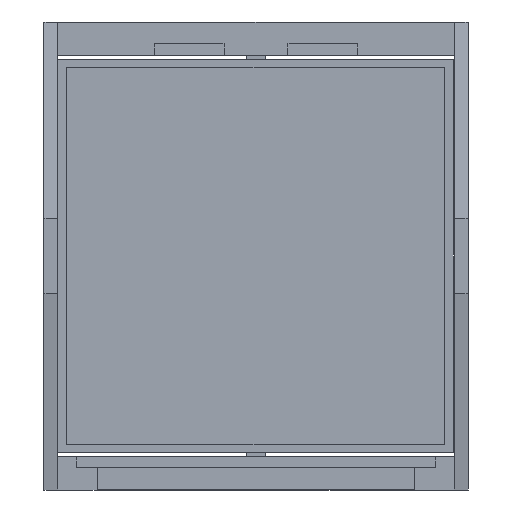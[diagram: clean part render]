
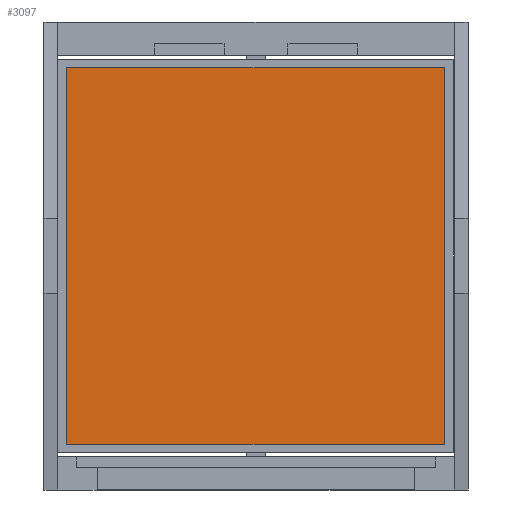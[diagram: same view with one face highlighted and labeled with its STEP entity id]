
A CAD part, front view. The second image highlights one B-rep face of the part: STEP entity #3097.
In plain terms, the highlighted planar face has unit normal (0, -1, 0).
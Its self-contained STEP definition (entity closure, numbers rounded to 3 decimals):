
#828 = LINE ( 'NONE', #4427, #5361 ) ;
#1387 = ORIENTED_EDGE ( 'NONE', *, *, #3727, .F. ) ;
#1800 = CARTESIAN_POINT ( 'NONE',  ( 24.524, -2.324, 17.577 ) ) ;
#1819 = DIRECTION ( 'NONE',  ( 0., 0., -1. ) ) ;
#2428 = LINE ( 'NONE', #3927, #5085 ) ;
#2528 = AXIS2_PLACEMENT_3D ( 'NONE', #2672, #8666, #4401 ) ;
#2545 = CARTESIAN_POINT ( 'NONE',  ( -13.476, -2.324, 17.577 ) ) ;
#2672 = CARTESIAN_POINT ( 'NONE',  ( -13.476, -2.324, 17.577 ) ) ;
#3097 = ADVANCED_FACE ( 'NONE', ( #5540 ), #9293, .F. ) ;
#3375 = DIRECTION ( 'NONE',  ( 1., 0., 0. ) ) ;
#3727 = EDGE_CURVE ( 'NONE', #6387, #7983, #5525, .T. ) ;
#3893 = EDGE_CURVE ( 'NONE', #7983, #5519, #828, .T. ) ;
#3927 = CARTESIAN_POINT ( 'NONE',  ( -13.476, -2.324, -20.423 ) ) ;
#4098 = ORIENTED_EDGE ( 'NONE', *, *, #3893, .F. ) ;
#4199 = CARTESIAN_POINT ( 'NONE',  ( -13.476, -2.324, -20.423 ) ) ;
#4401 = DIRECTION ( 'NONE',  ( 0., 0., 1. ) ) ;
#4427 = CARTESIAN_POINT ( 'NONE',  ( 24.524, -2.324, -20.423 ) ) ;
#5085 = VECTOR ( 'NONE', #7048, 1000. ) ;
#5169 = EDGE_LOOP ( 'NONE', ( #8869, #9257, #4098, #1387 ) ) ;
#5291 = VECTOR ( 'NONE', #7921, 1000. ) ;
#5361 = VECTOR ( 'NONE', #1819, 1000. ) ;
#5366 = CARTESIAN_POINT ( 'NONE',  ( 24.524, -2.324, -20.423 ) ) ;
#5519 = VERTEX_POINT ( 'NONE', #5366 ) ;
#5525 = LINE ( 'NONE', #8506, #9396 ) ;
#5540 = FACE_OUTER_BOUND ( 'NONE', #5169, .T. ) ;
#6387 = VERTEX_POINT ( 'NONE', #2545 ) ;
#6986 = VERTEX_POINT ( 'NONE', #8276 ) ;
#7048 = DIRECTION ( 'NONE',  ( -1., 0., 0. ) ) ;
#7921 = DIRECTION ( 'NONE',  ( 0., 0., 1. ) ) ;
#7983 = VERTEX_POINT ( 'NONE', #1800 ) ;
#8091 = EDGE_CURVE ( 'NONE', #6986, #6387, #8653, .T. ) ;
#8276 = CARTESIAN_POINT ( 'NONE',  ( -13.476, -2.324, -20.423 ) ) ;
#8506 = CARTESIAN_POINT ( 'NONE',  ( -13.476, -2.324, 17.577 ) ) ;
#8653 = LINE ( 'NONE', #4199, #5291 ) ;
#8666 = DIRECTION ( 'NONE',  ( 0., 1., 0. ) ) ;
#8869 = ORIENTED_EDGE ( 'NONE', *, *, #8091, .F. ) ;
#9257 = ORIENTED_EDGE ( 'NONE', *, *, #9383, .F. ) ;
#9293 = PLANE ( 'NONE',  #2528 ) ;
#9383 = EDGE_CURVE ( 'NONE', #5519, #6986, #2428, .T. ) ;
#9396 = VECTOR ( 'NONE', #3375, 1000. ) ;
